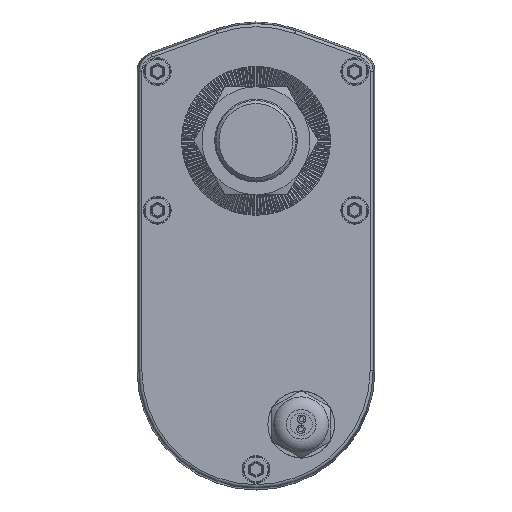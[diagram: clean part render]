
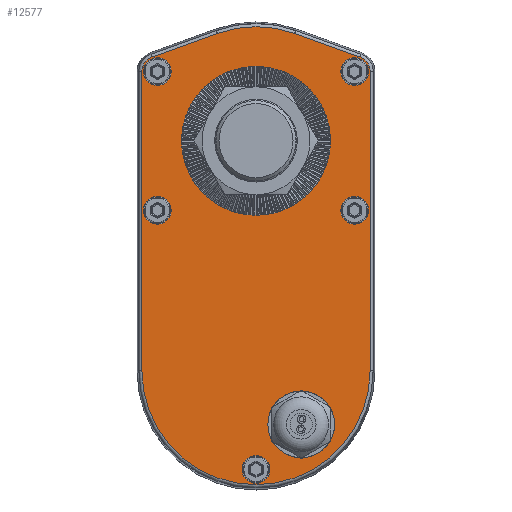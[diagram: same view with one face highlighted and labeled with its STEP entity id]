
A CAD part, top view. The second image highlights one B-rep face of the part: STEP entity #12577.
In plain terms, the highlighted planar face has unit normal (0, 0, 1).
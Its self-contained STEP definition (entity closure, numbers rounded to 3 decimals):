
#623 = CARTESIAN_POINT ( 'NONE',  ( 37.012, 22.46, 40. ) ) ;
#724 = ORIENTED_EDGE ( 'NONE', *, *, #27827, .T. ) ;
#810 = VERTEX_POINT ( 'NONE', #6306 ) ;
#906 = EDGE_LOOP ( 'NONE', ( #27088, #23282, #724, #28620, #11719, #15214, #14353, #10309 ) ) ;
#987 = VERTEX_POINT ( 'NONE', #623 ) ;
#1232 = CARTESIAN_POINT ( 'NONE',  ( -12.586, 34.812, 40. ) ) ;
#1553 = CARTESIAN_POINT ( 'NONE',  ( -24.1, 0., 40. ) ) ;
#1573 = EDGE_CURVE ( 'NONE', #11102, #11102, #20255, .T. ) ;
#1579 = EDGE_CURVE ( 'NONE', #5056, #5056, #14949, .T. ) ;
#1583 = DIRECTION ( 'NONE',  ( 0., 0., 1. ) ) ;
#1622 = CARTESIAN_POINT ( 'NONE',  ( -33.701, 27.179, 40. ) ) ;
#1915 = EDGE_CURVE ( 'NONE', #26874, #18962, #7855, .T. ) ;
#1928 = DIRECTION ( 'NONE',  ( 0., 0., 1. ) ) ;
#2643 = ORIENTED_EDGE ( 'NONE', *, *, #20097, .F. ) ;
#2780 = ORIENTED_EDGE ( 'NONE', *, *, #8960, .F. ) ;
#2786 = FACE_BOUND ( 'NONE', #7300, .T. ) ;
#2823 = AXIS2_PLACEMENT_3D ( 'NONE', #18208, #4662, #20509 ) ;
#3322 = CARTESIAN_POINT ( 'NONE',  ( 0., -106.54, 40. ) ) ;
#3438 = CARTESIAN_POINT ( 'NONE',  ( -37.012, -74.495, 40. ) ) ;
#3784 = DIRECTION ( 'NONE',  ( 0., 0., -1. ) ) ;
#4049 = EDGE_CURVE ( 'NONE', #12911, #24271, #23323, .T. ) ;
#4172 = AXIS2_PLACEMENT_3D ( 'NONE', #10374, #26213, #12683 ) ;
#4476 = AXIS2_PLACEMENT_3D ( 'NONE', #27253, #15489, #21510 ) ;
#4662 = DIRECTION ( 'NONE',  ( 0., 0., 1. ) ) ;
#4783 = EDGE_CURVE ( 'NONE', #9678, #9678, #24393, .T. ) ;
#4880 = VERTEX_POINT ( 'NONE', #20298 ) ;
#5056 = VERTEX_POINT ( 'NONE', #1553 ) ;
#5301 = VERTEX_POINT ( 'NONE', #1622 ) ;
#5610 = DIRECTION ( 'NONE',  ( 1., 0., 0. ) ) ;
#6306 = CARTESIAN_POINT ( 'NONE',  ( -27.5, 22.46, 40. ) ) ;
#6549 = CARTESIAN_POINT ( 'NONE',  ( 32., 22.46, 40. ) ) ;
#6702 = AXIS2_PLACEMENT_3D ( 'NONE', #22242, #8689, #24513 ) ;
#7300 = EDGE_LOOP ( 'NONE', ( #2643 ) ) ;
#7535 = AXIS2_PLACEMENT_3D ( 'NONE', #21937, #10408, #16336 ) ;
#7632 = AXIS2_PLACEMENT_3D ( 'NONE', #15511, #1928, #17749 ) ;
#7782 = EDGE_LOOP ( 'NONE', ( #2780 ) ) ;
#7855 = LINE ( 'NONE', #23817, #14605 ) ;
#8082 = EDGE_LOOP ( 'NONE', ( #26284 ) ) ;
#8267 = CARTESIAN_POINT ( 'NONE',  ( 0., 0., 40. ) ) ;
#8300 = CIRCLE ( 'NONE', #4172, 37.012 ) ;
#8577 = CARTESIAN_POINT ( 'NONE',  ( 37.012, -74.495, 40. ) ) ;
#8689 = DIRECTION ( 'NONE',  ( 0., 0., 1. ) ) ;
#8829 = DIRECTION ( 'NONE',  ( -1., 0., 0. ) ) ;
#8838 = FACE_BOUND ( 'NONE', #8082, .T. ) ;
#8878 = CARTESIAN_POINT ( 'NONE',  ( 4.5, -106.54, 40. ) ) ;
#8960 = EDGE_CURVE ( 'NONE', #19585, #19585, #22479, .T. ) ;
#8965 = EDGE_LOOP ( 'NONE', ( #20502 ) ) ;
#9045 = EDGE_CURVE ( 'NONE', #18962, #10604, #8300, .T. ) ;
#9304 = EDGE_LOOP ( 'NONE', ( #25891 ) ) ;
#9367 = ORIENTED_EDGE ( 'NONE', *, *, #10610, .F. ) ;
#9478 = LINE ( 'NONE', #25438, #15510 ) ;
#9546 = FACE_BOUND ( 'NONE', #9304, .T. ) ;
#9678 = VERTEX_POINT ( 'NONE', #26516 ) ;
#9701 = DIRECTION ( 'NONE',  ( -0.94, -0.34, 0. ) ) ;
#10309 = ORIENTED_EDGE ( 'NONE', *, *, #22626, .T. ) ;
#10374 = CARTESIAN_POINT ( 'NONE',  ( 0., -74.495, 40. ) ) ;
#10408 = DIRECTION ( 'NONE',  ( 0., 0., 1. ) ) ;
#10604 = VERTEX_POINT ( 'NONE', #8577 ) ;
#10610 = EDGE_CURVE ( 'NONE', #810, #810, #26650, .T. ) ;
#11102 = VERTEX_POINT ( 'NONE', #28675 ) ;
#11379 = CARTESIAN_POINT ( 'NONE',  ( 37.012, 22.46, 40. ) ) ;
#11719 = ORIENTED_EDGE ( 'NONE', *, *, #26063, .T. ) ;
#12083 = CARTESIAN_POINT ( 'NONE',  ( 14.656, -91.966, 40. ) ) ;
#12577 = ADVANCED_FACE ( 'NONE', ( #8838, #26897, #14863, #20866, #9546, #2786, #26190, #20168 ), #17349, .F. ) ;
#12683 = DIRECTION ( 'NONE',  ( -1., 0., 0. ) ) ;
#12749 = CIRCLE ( 'NONE', #19974, 5.017 ) ;
#12911 = VERTEX_POINT ( 'NONE', #27476 ) ;
#13575 = DIRECTION ( 'NONE',  ( 0., 0., 1. ) ) ;
#13658 = DIRECTION ( 'NONE',  ( 0., 1., 0. ) ) ;
#14353 = ORIENTED_EDGE ( 'NONE', *, *, #20239, .T. ) ;
#14362 = DIRECTION ( 'NONE',  ( -1., 0., 0. ) ) ;
#14605 = VECTOR ( 'NONE', #19264, 1000. ) ;
#14863 = FACE_BOUND ( 'NONE', #8965, .T. ) ;
#14949 = CIRCLE ( 'NONE', #7535, 24.1 ) ;
#15164 = CARTESIAN_POINT ( 'NONE',  ( -32., -22.54, 40. ) ) ;
#15214 = ORIENTED_EDGE ( 'NONE', *, *, #4049, .T. ) ;
#15422 = LINE ( 'NONE', #23212, #26759 ) ;
#15489 = DIRECTION ( 'NONE',  ( 0., 0., 1. ) ) ;
#15510 = VECTOR ( 'NONE', #9701, 1000. ) ;
#15511 = CARTESIAN_POINT ( 'NONE',  ( 0., 0., 40. ) ) ;
#15713 = CIRCLE ( 'NONE', #2823, 5.017 ) ;
#16336 = DIRECTION ( 'NONE',  ( -1., 0., 0. ) ) ;
#17349 = PLANE ( 'NONE',  #28780 ) ;
#17415 = DIRECTION ( 'NONE',  ( 1., 0., 0. ) ) ;
#17749 = DIRECTION ( 'NONE',  ( -1., 0., 0. ) ) ;
#18208 = CARTESIAN_POINT ( 'NONE',  ( 31.995, 22.46, 40. ) ) ;
#18323 = AXIS2_PLACEMENT_3D ( 'NONE', #6549, #22391, #8829 ) ;
#18378 = AXIS2_PLACEMENT_3D ( 'NONE', #12083, #27903, #14362 ) ;
#18469 = VERTEX_POINT ( 'NONE', #8878 ) ;
#18962 = VERTEX_POINT ( 'NONE', #3438 ) ;
#19161 = DIRECTION ( 'NONE',  ( 0., 0., 1. ) ) ;
#19232 = VECTOR ( 'NONE', #13658, 1000. ) ;
#19264 = DIRECTION ( 'NONE',  ( 0., -1., 0. ) ) ;
#19473 = CIRCLE ( 'NONE', #27897, 4.5 ) ;
#19585 = VERTEX_POINT ( 'NONE', #26607 ) ;
#19642 = DIRECTION ( 'NONE',  ( -1., 0., 0. ) ) ;
#19933 = VERTEX_POINT ( 'NONE', #26894 ) ;
#19974 = AXIS2_PLACEMENT_3D ( 'NONE', #27124, #13575, #29382 ) ;
#20097 = EDGE_CURVE ( 'NONE', #19933, #19933, #23675, .T. ) ;
#20168 = FACE_BOUND ( 'NONE', #7782, .T. ) ;
#20239 = EDGE_CURVE ( 'NONE', #24271, #5301, #9478, .T. ) ;
#20255 = CIRCLE ( 'NONE', #4476, 4.5 ) ;
#20298 = CARTESIAN_POINT ( 'NONE',  ( 33.701, 27.179, 40. ) ) ;
#20502 = ORIENTED_EDGE ( 'NONE', *, *, #4783, .F. ) ;
#20509 = DIRECTION ( 'NONE',  ( -1., 0., 0. ) ) ;
#20866 = FACE_BOUND ( 'NONE', #24223, .T. ) ;
#21510 = DIRECTION ( 'NONE',  ( -1., 0., 0. ) ) ;
#21937 = CARTESIAN_POINT ( 'NONE',  ( 0., 0., 40. ) ) ;
#21940 = EDGE_CURVE ( 'NONE', #18469, #18469, #19473, .T. ) ;
#22242 = CARTESIAN_POINT ( 'NONE',  ( -32., 22.46, 40. ) ) ;
#22391 = DIRECTION ( 'NONE',  ( 0., 0., 1. ) ) ;
#22479 = CIRCLE ( 'NONE', #18378, 7.875 ) ;
#22626 = EDGE_CURVE ( 'NONE', #5301, #26874, #12749, .T. ) ;
#23212 = CARTESIAN_POINT ( 'NONE',  ( 12.586, 34.812, 40. ) ) ;
#23282 = ORIENTED_EDGE ( 'NONE', *, *, #9045, .T. ) ;
#23323 = CIRCLE ( 'NONE', #7632, 37.017 ) ;
#23597 = AXIS2_PLACEMENT_3D ( 'NONE', #15164, #1583, #17415 ) ;
#23675 = CIRCLE ( 'NONE', #18323, 4.5 ) ;
#23817 = CARTESIAN_POINT ( 'NONE',  ( -37.012, -74.495, 40. ) ) ;
#24223 = EDGE_LOOP ( 'NONE', ( #25312 ) ) ;
#24271 = VERTEX_POINT ( 'NONE', #1232 ) ;
#24393 = CIRCLE ( 'NONE', #23597, 4.5 ) ;
#24513 = DIRECTION ( 'NONE',  ( 1., 0., 0. ) ) ;
#25312 = ORIENTED_EDGE ( 'NONE', *, *, #21940, .F. ) ;
#25438 = CARTESIAN_POINT ( 'NONE',  ( -33.701, 27.179, 40. ) ) ;
#25503 = DIRECTION ( 'NONE',  ( -0.94, 0.34, 0. ) ) ;
#25602 = EDGE_LOOP ( 'NONE', ( #9367 ) ) ;
#25891 = ORIENTED_EDGE ( 'NONE', *, *, #1573, .F. ) ;
#25979 = LINE ( 'NONE', #11379, #19232 ) ;
#26063 = EDGE_CURVE ( 'NONE', #4880, #12911, #15422, .T. ) ;
#26190 = FACE_OUTER_BOUND ( 'NONE', #906, .T. ) ;
#26213 = DIRECTION ( 'NONE',  ( 0., 0., 1. ) ) ;
#26284 = ORIENTED_EDGE ( 'NONE', *, *, #1579, .F. ) ;
#26516 = CARTESIAN_POINT ( 'NONE',  ( -27.5, -22.54, 40. ) ) ;
#26607 = CARTESIAN_POINT ( 'NONE',  ( 6.781, -91.966, 40. ) ) ;
#26650 = CIRCLE ( 'NONE', #6702, 4.5 ) ;
#26759 = VECTOR ( 'NONE', #25503, 1000. ) ;
#26874 = VERTEX_POINT ( 'NONE', #27208 ) ;
#26894 = CARTESIAN_POINT ( 'NONE',  ( 27.5, 22.46, 40. ) ) ;
#26897 = FACE_BOUND ( 'NONE', #25602, .T. ) ;
#27088 = ORIENTED_EDGE ( 'NONE', *, *, #1915, .T. ) ;
#27124 = CARTESIAN_POINT ( 'NONE',  ( -31.995, 22.46, 40. ) ) ;
#27208 = CARTESIAN_POINT ( 'NONE',  ( -37.012, 22.46, 40. ) ) ;
#27253 = CARTESIAN_POINT ( 'NONE',  ( 32., -22.54, 40. ) ) ;
#27476 = CARTESIAN_POINT ( 'NONE',  ( 12.586, 34.812, 40. ) ) ;
#27478 = EDGE_CURVE ( 'NONE', #987, #4880, #15713, .T. ) ;
#27827 = EDGE_CURVE ( 'NONE', #10604, #987, #25979, .T. ) ;
#27897 = AXIS2_PLACEMENT_3D ( 'NONE', #3322, #19161, #5610 ) ;
#27903 = DIRECTION ( 'NONE',  ( 0., 0., 1. ) ) ;
#28620 = ORIENTED_EDGE ( 'NONE', *, *, #27478, .T. ) ;
#28675 = CARTESIAN_POINT ( 'NONE',  ( 27.5, -22.54, 40. ) ) ;
#28780 = AXIS2_PLACEMENT_3D ( 'NONE', #8267, #3784, #19642 ) ;
#29382 = DIRECTION ( 'NONE',  ( -1., 0., 0. ) ) ;
